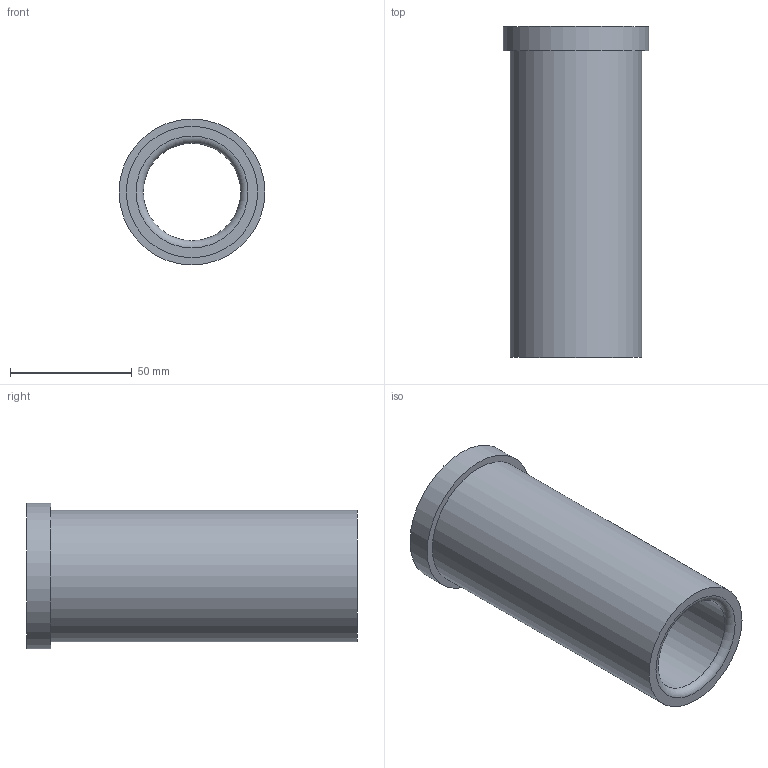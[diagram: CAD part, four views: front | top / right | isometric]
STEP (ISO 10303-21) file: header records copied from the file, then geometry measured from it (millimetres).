
FILE_DESCRIPTION(/* description */ ('STEP AP214'),/* implementation_level */ '2;1');
FILE_NAME(/* name */ '03_12_17863',/* time_stamp */ '2023-06-15T11:35:44+02:00',/* author */ ('License CC BY-ND 4.0'),/* organization */ ('CADENAS'),/* preprocessor_version */ 'ST-DEVELOPER v19.3',/* originating_system */ 'PARTsolutions',/* authorisation */ ' ');
FILE_SCHEMA (('AUTOMOTIVE_DESIGN {1 0 10303 214 3 1 1}'));
Length unit declared in the file: millimetre
Products named in the file (1): VA_Bushing_17863
Bounding box: 60 x 136 x 60 mm (x, y, z)
Volume: 144401.1 mm3; surface area: 43225.4 mm2
Topology: 1 solids, 1 shells, 10 faces, 16 edges, 10 vertices
Faces by surface type: cylinder 4, plane 4, torus 2
Full cylindrical faces by diameter (mm): 40 x1, 40.6 x1, 54 x1, 60 x1
Entity records: 302 total; most frequent: DIRECTION 42, CARTESIAN_POINT 31, AXIS2_PLACEMENT_3D 21, ORIENTED_EDGE 20, EDGE_LOOP 20, FACE_BOUND 20, EDGE_CURVE 10, VERTEX_POINT 10
